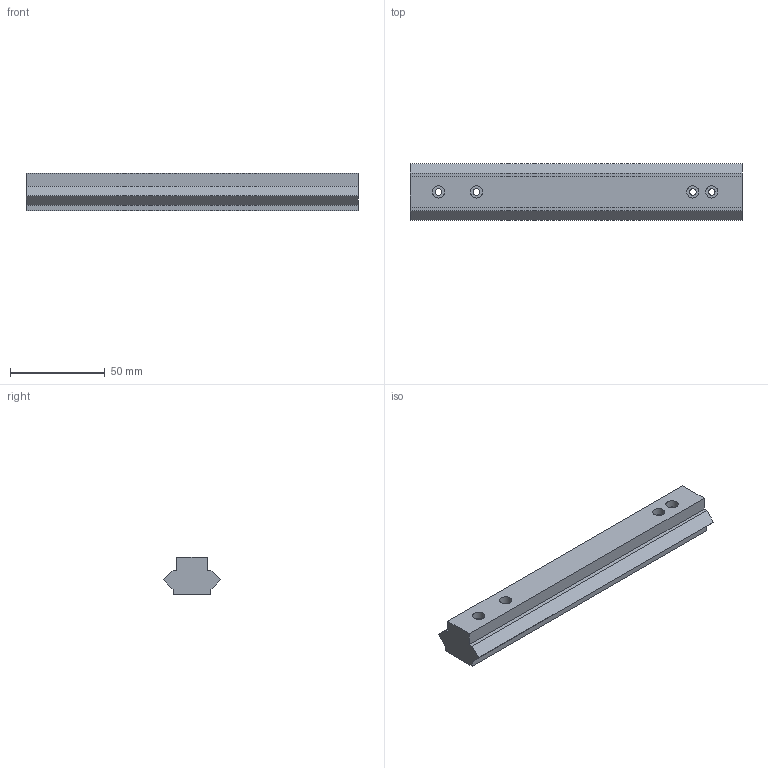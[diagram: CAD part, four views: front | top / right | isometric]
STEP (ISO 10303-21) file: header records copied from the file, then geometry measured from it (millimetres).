
FILE_DESCRIPTION(('Open CASCADE Model'),'2;1');
FILE_NAME('Open CASCADE Shape Model','2026-10-21T12:04:46',('Author'),( 'Open CASCADE'),'Open CASCADE STEP processor 7.9','Open CASCADE 7.9' ,'Unknown');
FILE_SCHEMA(('AUTOMOTIVE_DESIGN { 1 0 10303 214 1 1 1 1 }'));
Length unit declared in the file: millimetre
Products named in the file (1): Open CASCADE STEP translator 7.9 1
Bounding box: 174.9 x 30 x 20 mm (x, y, z)
Volume: 72712 mm3; surface area: 17217.6 mm2
Topology: 1 solids, 1 shells, 26 faces, 60 edges, 40 vertices
Faces by surface type: plane 18, cylinder 8
Full cylindrical faces by diameter (mm): 3.4 x4, 6.4 x4
Entity records: 1570 total; most frequent: CARTESIAN_POINT 295, DIRECTION 242, LINE 148, VECTOR 148, ORIENTED_EDGE 120, PCURVE 120, DEFINITIONAL_REPRESENTATION 120, EDGE_CURVE 60
